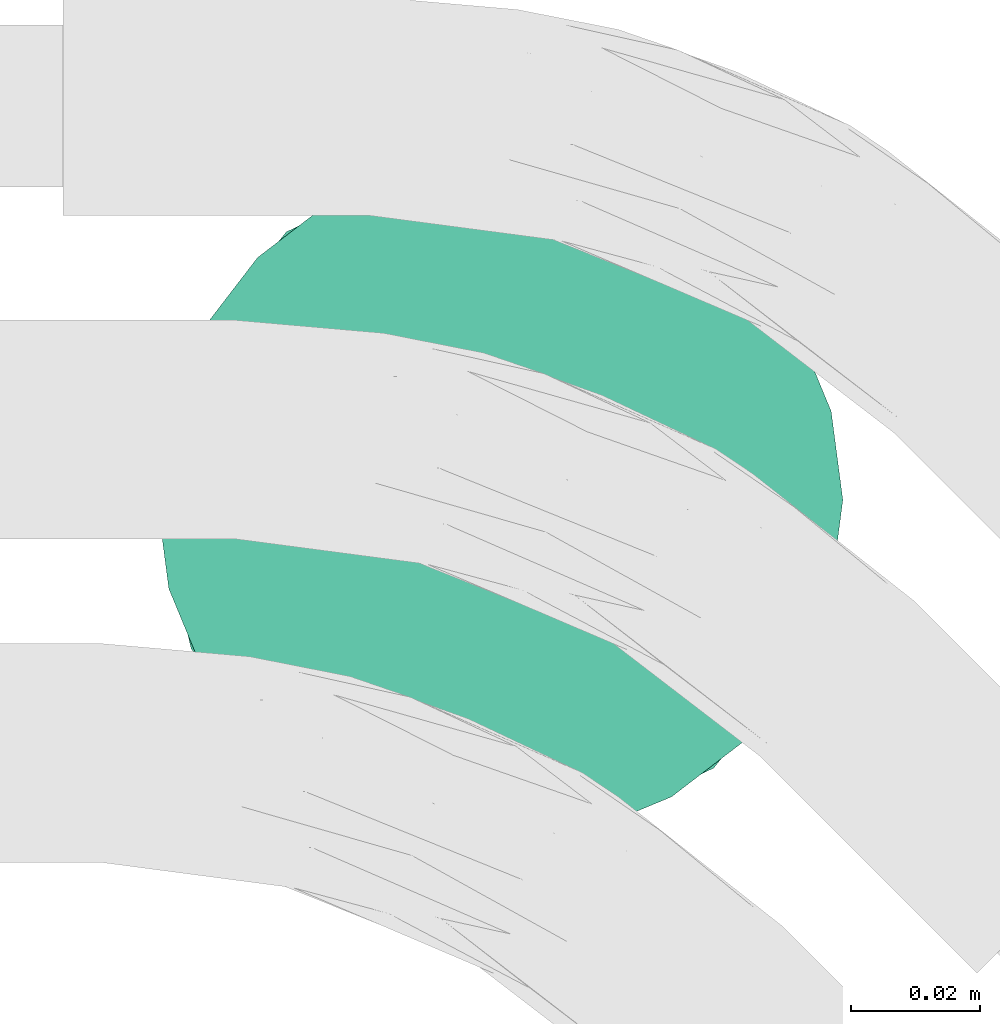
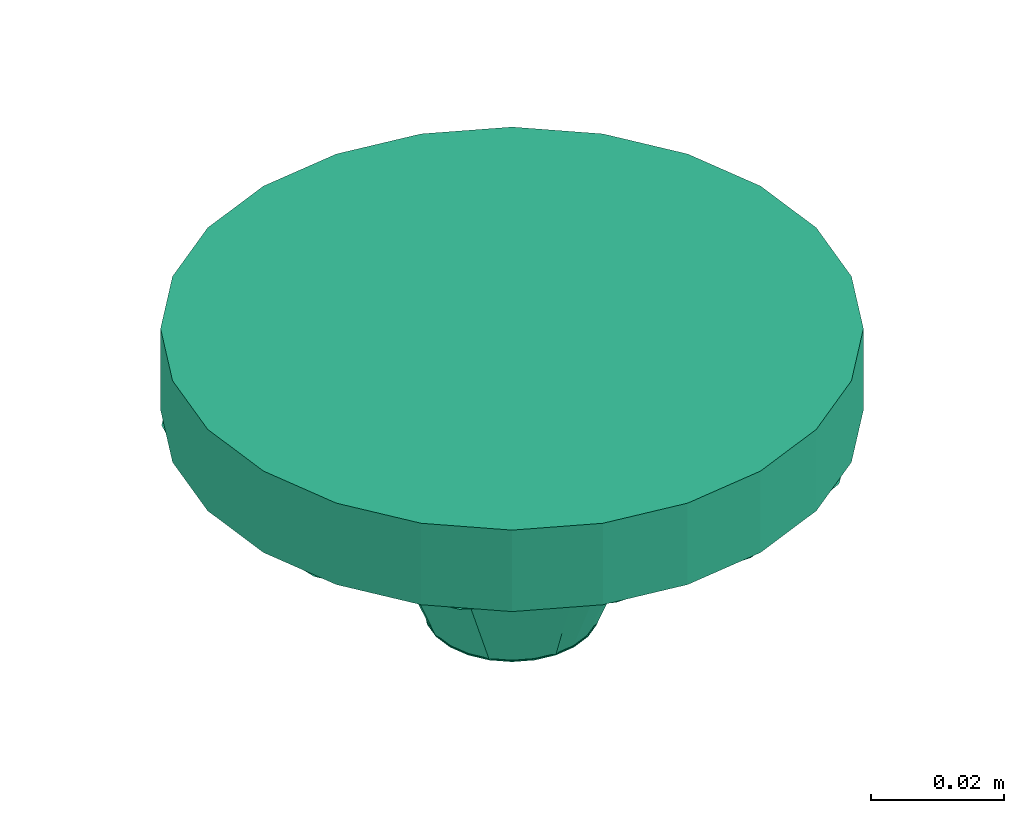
# One storey, part 50 of 51: 1 distribution control element.
"""IFC2X3 building model written with IfcOpenShell, lengths in millimetres."""

from ifc_helpers import new_model, entity, si_unit, converted_unit, derived_unit, direction, frame, origin_with_axes, place, context, subcontext, project, spatial, open_shell, surface_model, source, transform, mapped, type_object, element, save


model = new_model("IFC2X3")

# Units and contexts
model_context = context("Model", 3, precision=0.01, world=frame((0.0, 4.29681676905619e-09, 0.0)), true_north=direction((4.01073788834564e-13, 1.0)))
plan_context = context("Plan", 3, precision=0.01, world=frame((0.0, 4.29681676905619e-09, 0.0)), true_north=direction((4.01073788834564e-13, 1.0)))
body_context = subcontext(model_context, "Body", "Model", "MODEL_VIEW")
ifc_project = project(units=[converted_unit("PLANEANGLEUNIT", "DEGREE", entity("IfcPositiveLengthMeasure", 0.0174532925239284), si_unit("PLANEANGLEUNIT", "RADIAN"), dimensions=[0, 0, 0, 0, 0, 0, 0]), si_unit("AREAUNIT", "SQUARE_METRE"), si_unit("LENGTHUNIT", "METRE", prefix="MILLI"), si_unit("MASSUNIT", "GRAM", prefix="KILO"), si_unit("POWERUNIT", "WATT"), si_unit("PRESSUREUNIT", "PASCAL"), si_unit("FORCEUNIT", "NEWTON", prefix="KILO"), si_unit("ELECTRICVOLTAGEUNIT", "VOLT"), si_unit("ELECTRICCURRENTUNIT", "AMPERE"), si_unit("THERMODYNAMICTEMPERATUREUNIT", "DEGREE_CELSIUS"), si_unit("TIMEUNIT", "SECOND"), si_unit("VOLUMEUNIT", "CUBIC_METRE"), derived_unit("LINEARVELOCITYUNIT", [(si_unit("LENGTHUNIT", "METRE"), 1), (si_unit("TIMEUNIT", "SECOND"), -1)]), derived_unit("VOLUMETRICFLOWRATEUNIT", [(si_unit("VOLUMEUNIT", "CUBIC_METRE"), 1), (si_unit("TIMEUNIT", "SECOND"), -1)]), derived_unit("THERMALTRANSMITTANCEUNIT", [(si_unit("POWERUNIT", "WATT"), 1), (si_unit("THERMODYNAMICTEMPERATUREUNIT", "KELVIN"), -1), (si_unit("AREAUNIT", "SQUARE_METRE"), -1)]), derived_unit("SOUNDPRESSUREUNIT", [(si_unit("PRESSUREUNIT", "PASCAL"), 1)])], contexts=[model_context, plan_context])

# Site, building, storey
site_placement = place(None, frame((0.0, -4.29681676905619e-09, 0.0), z_axis=(0.0, 0.0, 1.0), x_axis=(1.0, 0.0, 0.0)))
site = spatial("IfcSite", under=ifc_project, at=site_placement, Name="ENGM", CompositionType="ELEMENT")
building_placement = place(site_placement, frame((0.0, 4.29681676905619e-09, 0.0), z_axis=(0.0, 0.0, 1.0), x_axis=(1.0, 0.0, 0.0)))
building = spatial("IfcBuilding", under=site, at=building_placement, Name="TI", CompositionType="ELEMENT")
storey_placement = place(building_placement, frame((0.0, 0.0, 210900.0), z_axis=(0.0, 0.0, 1.0), x_axis=(1.0, 0.0, 0.0)))
storey = spatial("IfcBuildingStorey", under=building, at=storey_placement, Name="Nivå F", CompositionType="ELEMENT", Elevation=210900.0)

# Distribution control element
alarm_type = type_object("IfcAlarmType", Name="Standard", PredefinedType="NOTDEFINED")
shared_shape = source(origin_with_axes(), body_context, "Body", "SurfaceModel", [
    surface_model("IfcShellBasedSurfaceModel", [(3.42935, -12.79852, -51.9), (6.625, -11.47484, -51.9), (9.36916, -9.36916, -51.9), (-6.625, -11.47484, -51.9), (12.79852, 3.42935, -51.9), (12.79852, -3.42935, -51.9), (11.47484, -6.625, -51.9), (-3.42935, -12.79852, -51.9), (0.0, -13.25, -51.9), (-9.36916, -9.36916, -51.9), (-13.25, 0.0, -51.9), (-11.47484, -6.625, -51.9), (-12.79852, 3.42935, -51.9), (-12.79852, -3.42935, -51.9), (13.25, 0.0, -51.9), (0.0, 13.25, -51.9), (11.47484, 6.625, -51.9), (9.36916, 9.36916, -51.9), (6.625, 11.47484, -51.9), (3.42935, 12.79852, -51.9), (-6.625, 11.47484, -51.9), (-9.36916, 9.36916, -51.9), (-11.47484, 6.625, -51.9), (-3.42935, 12.79852, -51.9), (0.0, 13.25, -52.1), (3.42935, 12.79852, -52.1), (6.625, 11.47484, -52.1), (-12.79852, 3.42935, -52.1), (11.47484, 6.625, -52.1), (12.79852, 3.42935, -52.1), (9.36916, 9.36916, -52.1), (-6.625, 11.47484, -52.1), (-9.36916, 9.36916, -52.1), (-3.42935, 12.79852, -52.1), (-11.47484, 6.625, -52.1), (-9.36916, -9.36916, -52.1), (-13.25, 0.0, -52.1), (-6.625, -11.47484, -52.1), (12.79852, -3.42935, -52.1), (9.36916, -9.36916, -52.1), (11.47484, -6.625, -52.1), (6.625, -11.47484, -52.1), (3.42935, -12.79852, -52.1), (-3.42935, -12.79852, -52.1), (-11.47484, -6.625, -52.1), (-12.79852, -3.42935, -52.1), (0.0, -13.25, -52.1), (13.25, 0.0, -52.1), (-20.25421, 16.43708, -19.0), (-13.15, 22.77647, -19.0), (-18.59691, 18.59691, -19.0), (-25.40385, 6.80694, -19.0), (-26.16376, 1.03484, -19.0), (-21.82398, 14.3913, -19.0), (-26.5, 0.0, -19.0), (-26.3, 0.0, -19.0), (-21.43895, 15.57631, -19.0), (-9.37871, 24.33859, -19.0), (9.37871, 24.33859, -19.0), (20.25421, 16.43708, -19.0), (13.15, 22.77647, -19.0), (-7.29184, 25.203, -19.0), (0.0, 26.3, -19.0), (-6.80694, 25.40385, -19.0), (7.29184, 25.203, -19.0), (21.82398, 14.3913, -19.0), (25.40385, 6.80694, -19.0), (22.77647, 13.15, -19.0), (8.18895, 25.203, -19.0), (26.5, 0.0, -19.0), (26.16376, 1.03484, -19.0), (26.3, 0.0, -19.0), (25.40385, -6.80694, -19.0), (21.82398, -14.3913, -19.0), (22.77647, -13.15, -19.0), (8.18895, -25.203, -19.0), (9.37871, -24.33859, -19.0), (7.29184, -25.203, -19.0), (6.80694, 25.40385, -19.0), (-26.16376, -1.03484, -19.0), (-22.77647, 13.15, -19.0), (-13.15, -22.77647, -19.0), (-9.37871, -24.33859, -19.0), (-20.25421, -16.43708, -19.0), (-25.40385, -6.80694, -19.0), (-21.82398, -14.3913, -19.0), (0.0, -26.3, -19.0), (6.80694, -25.40385, -19.0), (-7.29184, -25.203, -19.0), (-8.18895, -25.203, -19.0), (26.16376, -1.03484, -19.0), (-18.59691, -18.59691, -19.0), (21.43895, -15.57631, -19.0), (20.25421, -16.43708, -19.0), (13.15, -22.77647, -19.0), (18.59691, -18.59691, -19.0), (-8.18895, 25.203, -19.0), (-6.80694, -25.40385, -19.0), (-21.43895, -15.57631, -19.0), (-22.77647, -13.15, -19.0), (18.59691, 18.59691, -19.0), (21.43895, 15.57631, -19.0), (0.70781, 12.95681, -52.0), (0.0, 13.05, -52.0), (0.0, 13.25, -52.0), (3.37759, 12.60533, -52.0), (6.525, 11.30163, -52.0), (8.66135, 9.66235, -52.0), (9.36916, 9.36916, -52.0), (9.66235, 8.66135, -52.0), (9.22774, 9.22774, -52.0), (12.95681, 0.70781, -52.0), (13.25, 0.0, -52.0), (13.05, 0.0, -52.0), (12.60533, 3.37759, -52.0), (11.30163, 6.525, -52.0), (-13.05, 0.0, -52.0), (-12.95681, -0.70781, -52.0), (-13.25, 0.0, -52.0), (-6.525, 11.30163, -52.0), (-3.37759, 12.60533, -52.0), (-0.70781, 12.95681, -52.0), (-8.66135, 9.66235, -52.0), (-9.22774, 9.22774, -52.0), (-9.36916, 9.36916, -52.0), (-11.30163, 6.525, -52.0), (-9.66235, 8.66135, -52.0), (-12.60533, 3.37759, -52.0), (-12.95681, 0.70781, -52.0), (-11.30163, -6.525, -52.0), (-9.66235, -8.66135, -52.0), (12.95681, -0.70781, -52.0), (11.30163, -6.525, -52.0), (9.66235, -8.66135, -52.0), (9.36916, -9.36916, -52.0), (9.22774, -9.22774, -52.0), (8.66135, -9.66235, -52.0), (3.37759, -12.60533, -52.0), (0.70781, -12.95681, -52.0), (0.0, -13.25, -52.0), (0.0, -13.05, -52.0), (12.60533, -3.37759, -52.0), (-0.70781, -12.95681, -52.0), (-12.60533, -3.37759, -52.0), (-9.22774, -9.22774, -52.0), (-9.36916, -9.36916, -52.0), (-6.525, -11.30163, -52.0), (-3.37759, -12.60533, -52.0), (6.525, -11.30163, -52.0), (-8.66135, -9.66235, -52.0), (10.33937, -7.02687, -52.0), (-11.30958, -4.68458, -52.0), (-23.96948, -7.78815, -19.0), (11.30958, -4.68458, -52.0), (23.96948, -7.78815, -19.0), (22.70421, -11.68223, -19.0), (-14.81395, -20.38965, -19.0), (-7.02687, -10.33937, -52.0), (-4.68458, -11.30958, -52.0), (-2.34229, -12.27979, -52.0), (0.0, -25.203, -19.0), (2.34229, -12.27979, -52.0), (-10.33937, -7.02687, -52.0), (4.68458, -11.30958, -52.0), (12.27979, -2.34229, -52.0), (14.81395, -20.38965, -19.0), (7.02687, -10.33937, -52.0), (-12.27979, -2.34229, -52.0), (-10.33937, 7.02687, -52.0), (11.30958, 4.68458, -52.0), (23.96948, 7.78815, -19.0), (-11.30958, 4.68458, -52.0), (-23.96948, 7.78815, -19.0), (-22.70421, 11.68223, -19.0), (14.81395, 20.38965, -19.0), (7.02687, 10.33937, -52.0), (4.68458, 11.30958, -52.0), (2.34229, 12.27979, -52.0), (0.0, 25.203, -19.0), (-2.34229, 12.27979, -52.0), (10.33937, 7.02687, -52.0), (-4.68458, 11.30958, -52.0), (-12.27979, 2.34229, -52.0), (-14.81395, 20.38965, -19.0), (-7.02687, 10.33937, -52.0), (12.27979, 2.34229, -52.0), (-11.79361, 51.67118, -15.0), (-33.04496, 41.43707, -15.0), (-47.75135, 22.99584, -15.0), (11.79361, -51.67118, -15.0), (11.79361, 51.67118, -15.0), (47.75135, 22.99584, -15.0), (33.04496, 41.43707, -15.0), (47.75135, -22.99584, -15.0), (-53.0, 0.0, -15.0), (-47.75135, -22.99584, -15.0), (-33.04496, -41.43707, -15.0), (-11.79361, -51.67118, -15.0), (53.0, 0.0, -15.0), (33.04496, -41.43707, -15.0), (-40.39816, -32.21645, -15.0), (-22.41928, -46.55413, -15.0), (-50.37568, -11.49792, -15.0), (22.41928, -46.55413, -15.0), (50.37568, -11.49792, -15.0), (40.39816, -32.21645, -15.0), (0.0, -51.67118, -15.0), (40.39816, 32.21645, -15.0), (22.41928, 46.55413, -15.0), (50.37568, 11.49792, -15.0), (-22.41928, 46.55413, -15.0), (-50.37568, 11.49792, -15.0), (-40.39816, 32.21645, -15.0), (0.0, 51.67118, -15.0), (13.71741, -51.19407, 0.0), (26.5, -45.89935, 0.0), (37.47666, -37.47666, 0.0), (-26.5, -45.89935, 0.0), (51.19407, 13.71741, 0.0), (51.19407, -13.71741, 0.0), (45.89935, -26.5, 0.0), (-13.71741, -51.19407, 0.0), (0.0, -53.0, 0.0), (-37.47666, -37.47666, 0.0), (-53.0, 0.0, 0.0), (-45.89935, -26.5, 0.0), (-51.19407, 13.71741, 0.0), (-51.19407, -13.71741, 0.0), (53.0, 0.0, 0.0), (0.0, 53.0, 0.0), (45.89935, 26.5, 0.0), (37.47666, 37.47666, 0.0), (26.5, 45.89935, 0.0), (13.71741, 51.19407, 0.0), (-26.5, 45.89935, 0.0), (-37.47666, 37.47666, 0.0), (-45.89935, 26.5, 0.0), (-13.71741, 51.19407, 0.0), (0.0, 53.0, -15.0), (13.71741, 51.19407, -15.0), (26.5, 45.89935, -15.0), (-51.19407, 13.71741, -15.0), (45.89935, 26.5, -15.0), (51.19407, 13.71741, -15.0), (37.47666, 37.47666, -15.0), (-26.5, 45.89935, -15.0), (-37.47666, 37.47666, -15.0), (-13.71741, 51.19407, -15.0), (-45.89935, 26.5, -15.0), (-37.47666, -37.47666, -15.0), (-26.5, -45.89935, -15.0), (51.19407, -13.71741, -15.0), (37.47666, -37.47666, -15.0), (45.89935, -26.5, -15.0), (26.5, -45.89935, -15.0), (13.71741, -51.19407, -15.0), (-13.71741, -51.19407, -15.0), (-45.89935, -26.5, -15.0), (-51.19407, -13.71741, -15.0), (0.0, -53.0, -15.0)], [open_shell([[[0, 1, 2]], [[3, 0, 2]], [[3, 2, 4]], [[5, 2, 6]], [[2, 5, 4]], [[0, 7, 8]], [[0, 3, 7]], [[9, 10, 11]], [[9, 3, 12]], [[11, 10, 13]], [[14, 4, 5]], [[15, 4, 16]], [[15, 16, 17]], [[18, 19, 15]], [[18, 15, 17]], [[4, 15, 20]], [[12, 21, 22]], [[10, 9, 12]], [[12, 20, 21]], [[12, 4, 20]], [[23, 20, 15]], [[12, 3, 4]], [[24, 25, 26]], [[27, 24, 26]], [[28, 29, 26]], [[28, 26, 30]], [[27, 26, 29]], [[31, 27, 32]], [[31, 33, 24]], [[32, 27, 34]], [[24, 27, 31]], [[27, 35, 36]], [[27, 29, 37]], [[38, 39, 29]], [[39, 38, 40]], [[39, 41, 42]], [[39, 37, 29]], [[42, 43, 39]], [[36, 35, 44]], [[45, 36, 44]], [[39, 43, 37]], [[37, 35, 27]], [[46, 43, 42]], [[29, 47, 38]], [[45, 13, 36]], [[44, 11, 45]], [[3, 35, 37]], [[44, 35, 9]], [[7, 37, 43]], [[45, 11, 13]], [[13, 10, 36]], [[7, 3, 37]], [[9, 35, 3]], [[9, 11, 44]], [[8, 7, 43]], [[43, 46, 8]], [[42, 0, 46]], [[41, 1, 42]], [[6, 39, 40]], [[41, 39, 2]], [[5, 40, 38]], [[41, 2, 1]], [[1, 0, 42]], [[14, 5, 38]], [[6, 40, 5]], [[6, 2, 39]], [[47, 14, 38]], [[46, 0, 8]], [[29, 4, 47]], [[28, 16, 29]], [[18, 30, 26]], [[28, 30, 17]], [[19, 26, 25]], [[29, 16, 4]], [[4, 14, 47]], [[19, 18, 26]], [[17, 30, 18]], [[17, 16, 28]], [[15, 19, 25]], [[25, 24, 15]], [[33, 23, 24]], [[31, 20, 33]], [[22, 32, 34]], [[31, 32, 21]], [[12, 34, 27]], [[31, 21, 20]], [[20, 23, 33]], [[10, 12, 27]], [[22, 34, 12]], [[22, 21, 32]], [[36, 10, 27]], [[24, 23, 15]], [[48, 49, 50]], [[51, 52, 53]], [[52, 54, 55]], [[56, 53, 48]], [[49, 48, 57]], [[58, 59, 60]], [[61, 62, 63]], [[62, 61, 64]], [[65, 66, 67]], [[64, 58, 68]], [[69, 70, 71]], [[72, 73, 74]], [[75, 76, 77]], [[62, 64, 78]], [[55, 54, 79]], [[51, 53, 80]], [[81, 82, 83]], [[84, 85, 79]], [[86, 87, 77]], [[88, 82, 89]], [[90, 73, 72]], [[69, 71, 90]], [[81, 83, 91]], [[92, 73, 93]], [[93, 94, 95]], [[96, 57, 61]], [[77, 88, 86]], [[86, 88, 97]], [[83, 85, 98]], [[99, 85, 84]], [[94, 93, 76]], [[60, 59, 100]], [[59, 65, 101]], [[66, 65, 70]], [[102, 103, 104]], [[105, 106, 107]], [[108, 109, 110]], [[111, 112, 113]], [[114, 109, 115]], [[110, 107, 108]], [[114, 111, 109]], [[116, 117, 118]], [[119, 120, 121]], [[122, 123, 124]], [[125, 126, 127]], [[128, 116, 118]], [[129, 117, 130]], [[105, 107, 102]], [[113, 112, 131]], [[131, 132, 133]], [[133, 134, 135]], [[136, 135, 134]], [[136, 137, 138]], [[138, 139, 140]], [[132, 131, 141]], [[140, 139, 142]], [[129, 143, 117]], [[144, 145, 130]], [[146, 142, 147]], [[137, 136, 148]], [[144, 149, 145]], [[149, 142, 146]], [[103, 121, 104]], [[119, 121, 122]], [[123, 126, 124]], [[127, 126, 128]], [[92, 134, 150]], [[151, 98, 152]], [[153, 154, 155]], [[156, 157, 158]], [[89, 159, 160]], [[160, 161, 75]], [[160, 159, 139]], [[162, 145, 98]], [[158, 89, 156]], [[161, 163, 75]], [[69, 164, 112]], [[134, 92, 165]], [[165, 163, 166]], [[69, 154, 164]], [[98, 151, 162]], [[54, 167, 152]], [[167, 54, 118]], [[161, 160, 139]], [[89, 158, 159]], [[156, 98, 145]], [[153, 164, 154]], [[92, 150, 155]], [[150, 153, 155]], [[156, 145, 157]], [[163, 165, 75]], [[166, 134, 165]], [[167, 151, 152]], [[56, 124, 168]], [[169, 101, 170]], [[171, 172, 173]], [[174, 175, 176]], [[68, 177, 178]], [[178, 179, 96]], [[178, 177, 104]], [[180, 108, 101]], [[176, 68, 174]], [[179, 181, 96]], [[54, 182, 118]], [[124, 56, 183]], [[183, 181, 184]], [[54, 172, 182]], [[101, 169, 180]], [[69, 185, 170]], [[185, 69, 112]], [[179, 178, 104]], [[68, 176, 177]], [[174, 101, 108]], [[171, 182, 172]], [[56, 168, 173]], [[168, 171, 173]], [[174, 108, 175]], [[181, 183, 96]], [[184, 124, 183]], [[185, 169, 170]], [[144, 129, 91]], [[129, 143, 99]], [[147, 146, 97]], [[81, 146, 144]], [[140, 147, 97]], [[84, 116, 55]], [[84, 143, 116]], [[81, 144, 91]], [[99, 143, 84]], [[91, 129, 99]], [[81, 97, 146]], [[97, 86, 140]], [[94, 135, 148]], [[87, 148, 137]], [[72, 113, 141]], [[74, 141, 132]], [[95, 132, 135]], [[86, 87, 137]], [[87, 94, 148]], [[94, 95, 135]], [[95, 74, 132]], [[141, 74, 72]], [[72, 71, 113]], [[140, 86, 137]], [[110, 115, 100]], [[115, 114, 67]], [[105, 106, 78]], [[60, 106, 110]], [[103, 105, 78]], [[66, 113, 71]], [[66, 114, 113]], [[60, 110, 100]], [[67, 114, 66]], [[100, 115, 67]], [[60, 78, 106]], [[78, 62, 103]], [[49, 123, 119]], [[63, 119, 120]], [[51, 116, 127]], [[80, 127, 125]], [[50, 125, 123]], [[62, 63, 120]], [[63, 49, 119]], [[49, 50, 123]], [[50, 80, 125]], [[127, 80, 51]], [[51, 55, 116]], [[103, 62, 120]], [[186, 187, 188]], [[188, 189, 186]], [[190, 186, 191]], [[191, 192, 190]], [[191, 186, 193]], [[188, 194, 189]], [[195, 196, 197]], [[195, 197, 189]], [[191, 193, 198]], [[189, 199, 193]], [[189, 193, 186]], [[194, 195, 189]], [[54, 68, 98]], [[96, 54, 56]], [[54, 96, 68]], [[68, 101, 69]], [[69, 92, 75]], [[98, 75, 89]], [[75, 98, 69]], [[69, 98, 68]], [[196, 98, 156]], [[200, 195, 98]], [[89, 197, 201]], [[202, 194, 54]], [[92, 199, 165]], [[193, 92, 154]], [[203, 165, 199]], [[98, 196, 200]], [[201, 156, 89]], [[196, 156, 201]], [[75, 189, 160]], [[165, 203, 75]], [[189, 75, 203]], [[204, 69, 198]], [[54, 152, 202]], [[92, 193, 205]], [[160, 206, 197]], [[69, 204, 154]], [[92, 205, 199]], [[152, 98, 195]], [[152, 195, 202]], [[160, 197, 89]], [[204, 193, 154]], [[160, 189, 206]], [[192, 101, 174]], [[207, 191, 101]], [[68, 190, 208]], [[209, 198, 69]], [[56, 187, 183]], [[188, 56, 172]], [[210, 183, 187]], [[101, 192, 207]], [[208, 174, 68]], [[192, 174, 208]], [[96, 186, 178]], [[183, 210, 96]], [[186, 96, 210]], [[211, 54, 194]], [[69, 170, 209]], [[56, 188, 212]], [[178, 213, 190]], [[54, 211, 172]], [[56, 212, 187]], [[170, 101, 191]], [[170, 191, 209]], [[178, 190, 68]], [[211, 188, 172]], [[178, 186, 213]], [[214, 215, 216]], [[217, 214, 216]], [[217, 216, 218]], [[219, 216, 220]], [[216, 219, 218]], [[214, 221, 222]], [[214, 217, 221]], [[223, 224, 225]], [[223, 217, 226]], [[225, 224, 227]], [[228, 218, 219]], [[229, 218, 230]], [[229, 230, 231]], [[232, 233, 229]], [[232, 229, 231]], [[218, 229, 234]], [[226, 235, 236]], [[224, 223, 226]], [[226, 234, 235]], [[226, 218, 234]], [[237, 234, 229]], [[226, 217, 218]], [[238, 239, 240]], [[241, 238, 240]], [[242, 243, 240]], [[242, 240, 244]], [[241, 240, 243]], [[245, 241, 246]], [[245, 247, 238]], [[246, 241, 248]], [[238, 241, 245]], [[241, 249, 194]], [[241, 243, 250]], [[251, 252, 243]], [[252, 251, 253]], [[252, 254, 255]], [[252, 250, 243]], [[255, 256, 252]], [[194, 249, 257]], [[258, 194, 257]], [[252, 256, 250]], [[250, 249, 241]], [[259, 256, 255]], [[243, 198, 251]], [[258, 227, 194]], [[257, 225, 258]], [[217, 249, 250]], [[257, 249, 223]], [[221, 250, 256]], [[258, 225, 227]], [[227, 224, 194]], [[221, 217, 250]], [[223, 249, 217]], [[223, 225, 257]], [[222, 221, 256]], [[256, 259, 222]], [[255, 214, 259]], [[254, 215, 255]], [[220, 252, 253]], [[254, 252, 216]], [[219, 253, 251]], [[254, 216, 215]], [[215, 214, 255]], [[228, 219, 251]], [[220, 253, 219]], [[220, 216, 252]], [[198, 228, 251]], [[259, 214, 222]], [[243, 218, 198]], [[242, 230, 243]], [[232, 244, 240]], [[242, 244, 231]], [[233, 240, 239]], [[243, 230, 218]], [[218, 228, 198]], [[233, 232, 240]], [[231, 244, 232]], [[231, 230, 242]], [[229, 233, 239]], [[239, 238, 229]], [[247, 237, 238]], [[245, 234, 247]], [[236, 246, 248]], [[245, 246, 235]], [[226, 248, 241]], [[245, 235, 234]], [[234, 237, 247]], [[224, 226, 241]], [[236, 248, 226]], [[236, 235, 246]], [[194, 224, 241]], [[238, 237, 229]]])]),
])
distribution_control_element_placement = place(storey_placement, frame((603651.00644, 697885.25144, 2585.0), z_axis=(0.0, 0.0, 1.0), x_axis=(1.0, 0.0, 0.0)))
element("IfcDistributionControlElement", 1, at=distribution_control_element_placement, inside=storey, type_object=alarm_type, Name="Standard", context=body_context, shape_type="MappedRepresentation", body=[
    mapped(shared_shape, transform((0.0, 0.0, 0.0), scale=1.0)),
])

save(model, "model.ifc")
